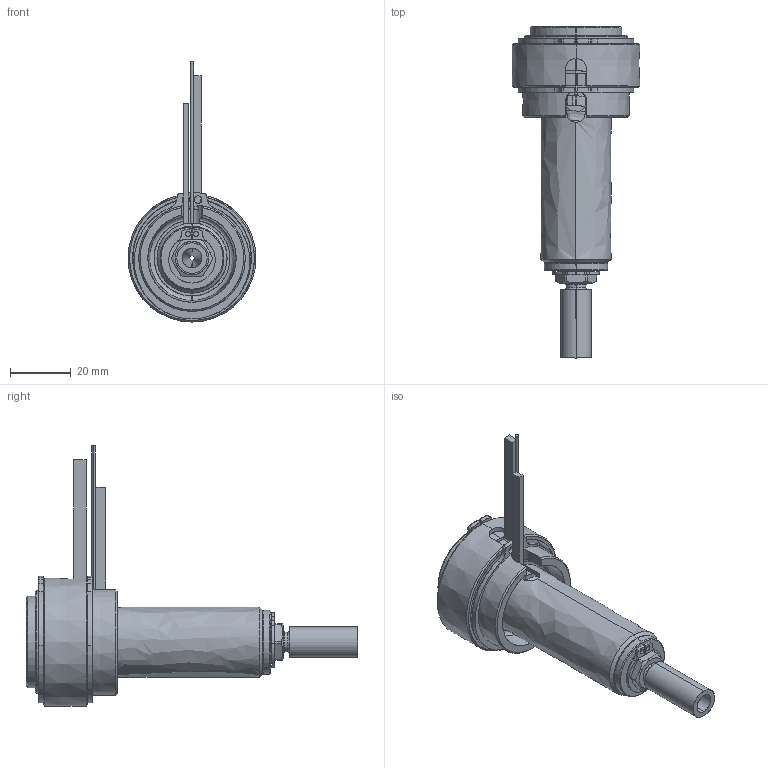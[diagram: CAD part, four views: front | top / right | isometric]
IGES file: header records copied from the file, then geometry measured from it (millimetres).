
Start section: SolidWorks IGES file using analytic representation for surfaces
Global section: file name: C:\Users\luca.EMPAD\Desktop\TEM\UGBE3501-M-A-P-5 [Ød-1.5 P-20 ØC-6.0].IGS; native system: SolidWorks 2012; preprocessor: SolidWorks 2012; author: luca; date: 120330.135605; units: millimetre
Bounding box: 42 x 109 x 85.4 mm (x, y, z)
Surface area: 27593.3 mm2 (no closed solid volume)
Topology: 0 solids, 0 shells, 185 faces, 3322 edges, 3322 vertices
Faces by surface type: revolution 118, bspline 67
